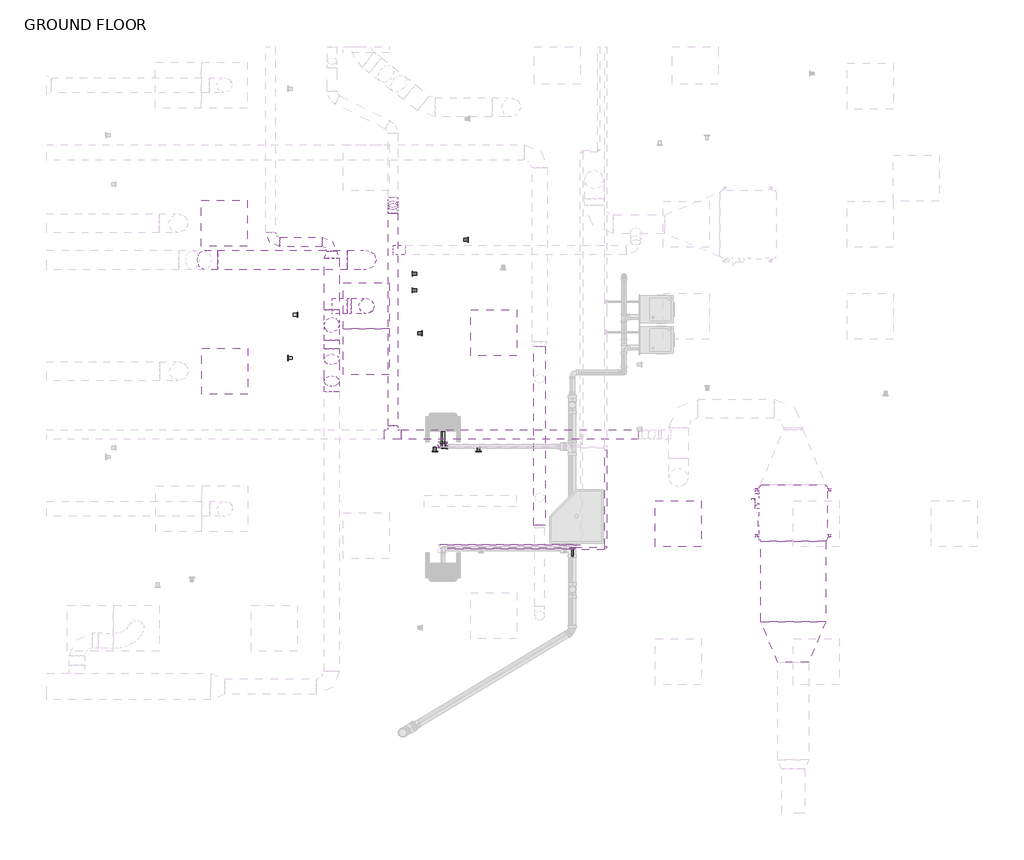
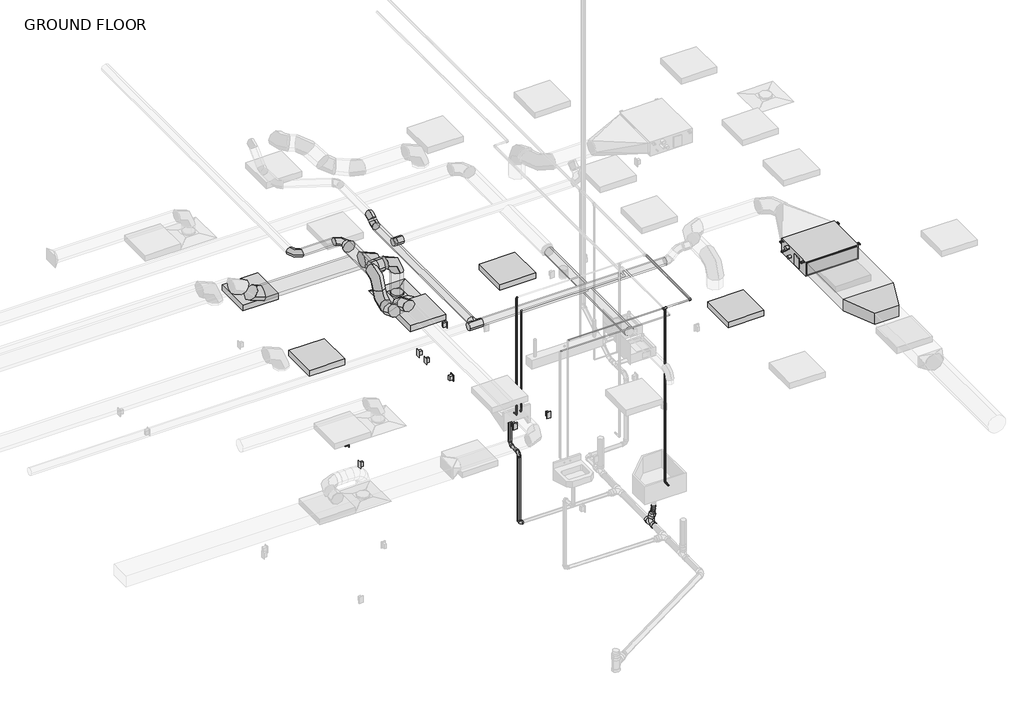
# One storey, part 7 of 20: 16 duct fittings, 15 pipe fittings, 14 pipe segments, 12 duct segments, 5 light fixtures, 5 proxies, 4 switching devices, 1 air terminal.
"""IFC4 building model written with IfcOpenShell, lengths in millimetres."""

from ifc_helpers import new_model, si_unit, point, frame, frame_2d, origin, place, context, project, spatial, polyline, circle_curve, trimmed, segment, composite_curve, outline, extrude, transform, mapped, element, save
from components import air_terminal_e9020785, mechanical_equipment_7e022f85, duplex_receptacle_countertop_10251bba, rectangular_transition_angle_45_degree_497df859, round_elbow_1_d_a253342a, round_elbow_1_d_6fec3262, round_elbow_1_d_c80420c1, round_elbow_1_d_ab3aa7ba, round_elbow_1_d_ea3dccb8, round_elbow_1_d_d4250430, round_takeoff_standard_331f3988, round_takeoff_standard_aff246af, round_tee_standard_ef45fe1c, round_transition_angle_45_degree_d7d10bec, troffer_corner_insert_2x2_3lamp_e67c7f8f, bend_pvc_sch_40_dwv_standard_56513ac6, bend_pvc_sch_40_dwv_standard_efe5b847, bend_pvc_sch_40_dwv_standard_0d44c437, elbow_generic_standard_c06ac706, elbow_generic_standard_738589b0, elbow_generic_standard_a088f956, reducer_pvc_sch_40_dwv_standard_5cd4e870, tee_generic_standard_d345b28c, tee_sanitary_pvc_sch_40_dwv_standard_33d2d55c, transition_generic_standard_55f5cc9a, transition_generic_standard_1e832544

model = new_model("IFC4")

# Units and contexts
model_context = context("Model", 3, world=origin())
ifc_project = project(units=[si_unit("LENGTHUNIT", "METRE", prefix="MILLI")], contexts=[model_context])

# Site, building, storey
site = spatial("IfcSite", under=ifc_project)
building = spatial("IfcBuilding", under=site)
storey = spatial("IfcBuildingStorey", under=building, Name="GROUND FLOOR", Elevation=30480.0)

# Air terminal
placement = place(None, origin())
air_terminal_shape = air_terminal_e9020785(model_context)
element("IfcAirTerminal", 1, ObjectType="Supply Diffuser - Rectangular Face Round Neck - Hosted : 24\"x24\" Face 8\" Neck - Hosted", at=placement, inside=storey, context=model_context, shape_type="MappedRepresentation", body=[
    mapped(air_terminal_shape, transform((10211.7545393, -1542.0554995, 33223.2), x_axis=(0.0, -1.0, 0.0), y_axis=(-1.0, 0.0, 0.0), z_axis=(0.0, 0.0, -1.0))),
])

# Proxies
mechanical_equipment_shape = mechanical_equipment_7e022f85(model_context)
element("IfcBuildingElementProxy", 2, Name="PEFY-P-NMAU-E_Medium_Static_Ducted : PEFY-P18NMAU-E", ObjectType="PEFY-P-NMAU-E_Medium_Static_Ducted : PEFY-P18NMAU-E", at=placement, inside=storey, context=model_context, shape_type="MappedRepresentation", body=[
    mapped(mechanical_equipment_shape, transform((15856.6983533, -4228.239426, 33604.2), x_axis=(-1.0, 0.0, 0.0), y_axis=(0.0, -1.0, 0.0), z_axis=(0.0, 0.0, 1.0))),
])
duplex_receptacle_countertop_shape = duplex_receptacle_countertop_10251bba(model_context)
element("IfcBuildingElementProxy", 3, Name="Duplex Receptacle : GFCI", ObjectType="Duplex Receptacle : GFCI", at=placement, inside=storey, context=model_context, shape_type="MappedRepresentation", body=[
    mapped(duplex_receptacle_countertop_shape, transform((10945.1795393, -1904.4991631, 31699.2), x_axis=(0.0, 1.0, 0.0), y_axis=(0.0, 0.0, 1.0), z_axis=(1.0, 0.0, 0.0))),
])
element("IfcBuildingElementProxy", 4, Name="Duplex Receptacle : GFCI", ObjectType="Duplex Receptacle : GFCI", at=placement, inside=storey, context=model_context, shape_type="MappedRepresentation", body=[
    mapped(duplex_receptacle_countertop_shape, transform((11695.4238413, -3466.1054995, 31699.2), x_axis=(1.0, 0.0, 0.0), y_axis=(0.0, 0.0, 1.0), z_axis=(0.0, -1.0, 0.0))),
])
element("IfcBuildingElementProxy", 5, Name="Duplex Receptacle : Standard", ObjectType="Duplex Receptacle : Standard", at=placement, inside=storey, context=model_context, shape_type="MappedRepresentation", body=[
    mapped(duplex_receptacle_countertop_shape, transform((9173.5295393, -2231.5768366, 30937.2), x_axis=(0.0, -1.0, 0.0), y_axis=(0.0, 0.0, 1.0), z_axis=(-1.0, 0.0, 0.0))),
])
element("IfcBuildingElementProxy", 6, Name="Duplex Receptacle : Standard", ObjectType="Duplex Receptacle : Standard", at=placement, inside=storey, context=model_context, shape_type="MappedRepresentation", body=[
    mapped(duplex_receptacle_countertop_shape, transform((9297.3545393, -1658.5626349, 30937.2), x_axis=(0.0, 1.0, 0.0), y_axis=(0.0, 0.0, 1.0), z_axis=(1.0, 0.0, 0.0))),
])

# Duct fittings
rectangular_transition_angle_45_degree_shape = rectangular_transition_angle_45_degree_497df859(model_context)
element("IfcDuctFitting", 7, ObjectType="Rectangular Transition - Angle : 45 Degree", at=placement, inside=storey, context=model_context, shape_type="MappedRepresentation", body=[
    mapped(rectangular_transition_angle_45_degree_shape, transform((15866.7105962, -5723.664426, 33750.25), x_axis=(0.0, -1.0, 0.0), y_axis=(1.0, 0.0, 0.0), z_axis=(0.0, 0.0, 1.0))),
])
round_elbow_1_d_shape = round_elbow_1_d_a253342a(model_context)
element("IfcDuctFitting", 8, ObjectType="Round Elbow : 1 D", at=placement, inside=storey, context=model_context, shape_type="MappedRepresentation", body=[
    mapped(round_elbow_1_d_shape, transform((10211.7545393, -1542.0554995, 33877.25), x_axis=(1.0, 0.0, 0.0), y_axis=(0.0, 0.0, -1.0), z_axis=(0.0, 1.0, 0.0))),
])
element("IfcDuctFitting", 9, ObjectType="Round Elbow : 1 D", at=placement, inside=storey, context=model_context, shape_type="MappedRepresentation", body=[
    mapped(round_elbow_1_d_shape, transform((9751.3795393, -1793.3165405, 33877.25), x_axis=(0.0, -1.0, 0.0), y_axis=(0.0, 0.0, -1.0), z_axis=(1.0, 0.0, 0.0))),
])
element("IfcDuctFitting", 10, ObjectType="Round Elbow : 1 D", at=placement, inside=storey, context=model_context, shape_type="MappedRepresentation", body=[
    mapped(round_elbow_1_d_shape, transform((9751.3795393, -1793.3165405, 33470.85), x_axis=(0.0, 0.0, -1.0), y_axis=(0.0, -1.0, 0.0), z_axis=(-1.0, 0.0, 0.0))),
])
round_elbow_1_d_2_shape = round_elbow_1_d_6fec3262(model_context)
element("IfcDuctFitting", 11, ObjectType="Round Elbow : 1 D", at=placement, inside=storey, context=model_context, shape_type="MappedRepresentation", body=[
    mapped(round_elbow_1_d_2_shape, transform((10211.7545393, -932.4554995, 33578.8), x_axis=(0.0, 0.0, 1.0), y_axis=(-1.0, 0.0, 0.0), z_axis=(0.0, -1.0, 0.0))),
])
round_elbow_1_d_3_shape = round_elbow_1_d_c80420c1(model_context)
element("IfcDuctFitting", 12, ObjectType="Round Elbow : 1 D", at=placement, inside=storey, context=model_context, shape_type="MappedRepresentation", body=[
    mapped(round_elbow_1_d_3_shape, transform((9751.3795393, -691.6850038, 33877.25), x_axis=(0.0, 1.0, 0.0), y_axis=(-1.0, 0.0, 0.0), z_axis=(0.0, 0.0, 1.0))),
])
element("IfcDuctFitting", 13, ObjectType="Round Elbow : 1 D", at=placement, inside=storey, context=model_context, shape_type="MappedRepresentation", body=[
    mapped(round_elbow_1_d_3_shape, transform((8938.5795393, -691.6850038, 33877.25), x_axis=(0.0, -1.0, 0.0), y_axis=(1.0, 0.0, 0.0), z_axis=(0.0, 0.0, 1.0))),
])
round_elbow_1_d_4_shape = round_elbow_1_d_ab3aa7ba(model_context)
element("IfcDuctFitting", 14, ObjectType="Round Elbow : 1 D", at=placement, inside=storey, context=model_context, shape_type="MappedRepresentation", body=[
    mapped(round_elbow_1_d_4_shape, transform((9751.3795393, -2596.6056414, 33877.25), x_axis=(0.0, 1.0, 0.0), y_axis=(0.0, 0.0, -1.0), z_axis=(-1.0, 0.0, 0.0))),
])
element("IfcDuctFitting", 15, ObjectType="Round Elbow : 1 D", at=placement, inside=storey, context=model_context, shape_type="MappedRepresentation", body=[
    mapped(round_elbow_1_d_4_shape, transform((9751.3795393, -2190.2056414, 33470.85), x_axis=(0.0, 0.7071067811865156, -0.7071067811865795), y_axis=(0.0, 0.7071067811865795, 0.7071067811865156), z_axis=(1.0, 0.0, 0.0))),
])
round_elbow_1_d_5_shape = round_elbow_1_d_ea3dccb8(model_context)
element("IfcDuctFitting", 16, ObjectType="Round Elbow : 1 D", at=placement, inside=storey, context=model_context, shape_type="MappedRepresentation", body=[
    mapped(round_elbow_1_d_5_shape, transform((8136.5019534, -932.4554995, 33578.8), x_axis=(0.7071067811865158, 0.0, -0.7071067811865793), y_axis=(0.7071067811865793, 0.0, 0.7071067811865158), z_axis=(0.0, -1.0, 0.0))),
])
round_elbow_1_d_6_shape = round_elbow_1_d_d4250430(model_context)
element("IfcDuctFitting", 17, ObjectType="Round Elbow : 1 D", at=placement, inside=storey, context=model_context, shape_type="MappedRepresentation", body=[
    mapped(round_elbow_1_d_6_shape, transform((10560.5577502, -156.9708741, 33705.8), x_axis=(0.0, -1.0, 0.0), y_axis=(0.0, 0.0, -1.0), z_axis=(1.0, 0.0, 0.0))),
])
element("IfcDuctFitting", 18, ObjectType="Round Elbow : 1 D", at=placement, inside=storey, context=model_context, shape_type="MappedRepresentation", body=[
    mapped(round_elbow_1_d_6_shape, transform((10560.5577502, -259.8606861, 33602.9101563), x_axis=(0.0, -0.7071066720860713, -0.7071068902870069), y_axis=(0.0, -0.7071068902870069, 0.7071066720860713), z_axis=(-1.0, 0.0, 0.0))),
])
round_takeoff_standard_shape = round_takeoff_standard_331f3988(model_context)
element("IfcDuctFitting", 19, ObjectType="Round Takeoff : Standard", at=placement, inside=storey, context=model_context, shape_type="MappedRepresentation", body=[
    mapped(round_takeoff_standard_shape, transform((10624.0577502, -800.4644888, 33602.9101562), x_axis=(1.0, 0.0, 0.0), y_axis=(0.0, -1.0, 0.0), z_axis=(0.0, 0.0, -1.0))),
])
round_takeoff_standard_2_shape = round_takeoff_standard_aff246af(model_context)
element("IfcDuctFitting", 20, ObjectType="Round Takeoff : Standard", at=placement, inside=storey, context=model_context, shape_type="MappedRepresentation", body=[
    mapped(round_takeoff_standard_2_shape, transform((9852.9795393, -1542.0554995, 33877.25), x_axis=(1.0, 0.0, 0.0), y_axis=(0.0, -1.0, 0.0), z_axis=(0.0, 0.0, -1.0))),
])
round_tee_standard_shape = round_tee_standard_ef45fe1c(model_context)
element("IfcDuctFitting", 21, ObjectType="Round Tee : Standard", at=placement, inside=storey, context=model_context, shape_type="MappedRepresentation", body=[
    mapped(round_tee_standard_shape, transform((10560.5577502, -3245.6216457, 33602.867541), x_axis=(-1.0, 0.0, 0.0), y_axis=(0.0, -1.0, 0.0), z_axis=(0.0, 0.0, 1.0))),
])
round_transition_angle_45_degree_shape = round_transition_angle_45_degree_d7d10bec(model_context)
element("IfcDuctFitting", 22, ObjectType="Round Transition - Angle : 45 Degree", at=placement, inside=storey, context=model_context, shape_type="MappedRepresentation", body=[
    mapped(round_transition_angle_45_degree_shape, transform((9751.3795393, -910.6665405, 33877.25), x_axis=(0.0, 1.0, 0.0), y_axis=(-1.0, 0.0, 0.0), z_axis=(0.0, 0.0, 1.0))),
])

# Duct segments
element("IfcDuctSegment", 23, ObjectType="Mitered Elbows / Taps", at=placement, inside=storey, context=model_context, shape_type="SweptSolid", body=[
    extrude(outline(polyline([(15438.8793462, -4656.864426), (16294.5418462, -4656.864426), (16294.5418462, -5723.664426), (15438.8793462, -5723.664426), (15438.8793462, -4656.864426)])), frame((0.0, 0.0, 33647.0625), z_axis=(0.0, 0.0, 1.0), x_axis=(1.0, 0.0, 0.0)), (0.0, 0.0, 1.0), 206.375),
])
element("IfcDuctSegment", 24, ObjectType="Taps / Short Radius", at=placement, inside=storey, context=model_context, shape_type="SweptSolid", body=[
    extrude(outline(composite_curve([segment(trimmed(circle_curve(frame_2d((-691.6850038, 33877.25)), 63.5), [point((-628.1850038, 33877.25))], [point((-691.6850038, 33813.75))], False, "CARTESIAN"), True, "CONTINUOUS"), segment(trimmed(circle_curve(frame_2d((-691.6850038, 33877.25)), 63.5), [point((-691.6850038, 33813.75))], [point((-755.1850038, 33877.25))], False, "CARTESIAN"), True, "CONTINUOUS"), segment(trimmed(circle_curve(frame_2d((-691.6850038, 33877.25)), 63.5), [point((-755.1850038, 33877.25))], [point((-691.6850038, 33940.75))], False, "CARTESIAN"), True, "CONTINUOUS"), segment(trimmed(circle_curve(frame_2d((-691.6850038, 33877.25)), 63.5), [point((-691.6850038, 33940.75))], [point((-628.1850038, 33877.25))], False, "CARTESIAN"), True, "CONTINUOUS")], self_intersect=False)), frame((9065.5795393, 0.0, 0.0), z_axis=(1.0, 0.0, 0.0), x_axis=(0.0, 1.0, 0.0)), (0.0, 0.0, 1.0), 558.8),
])
element("IfcDuctSegment", 25, ObjectType="Taps / Short Radius", at=placement, inside=storey, context=model_context, shape_type="SweptSolid", body=[
    extrude(outline(composite_curve([segment(trimmed(circle_curve(frame_2d((10211.7545393, -1542.0554995)), 101.6), [point((10211.7545393, -1643.6554995))], [point((10110.1545393, -1542.0554995))], False, "CARTESIAN"), True, "CONTINUOUS"), segment(trimmed(circle_curve(frame_2d((10211.7545393, -1542.0554995)), 101.6), [point((10110.1545393, -1542.0554995))], [point((10211.7545393, -1440.4554995))], False, "CARTESIAN"), True, "CONTINUOUS"), segment(trimmed(circle_curve(frame_2d((10211.7545393, -1542.0554995)), 101.6), [point((10211.7545393, -1440.4554995))], [point((10313.3545393, -1542.0554995))], False, "CARTESIAN"), True, "CONTINUOUS"), segment(trimmed(circle_curve(frame_2d((10211.7545393, -1542.0554995)), 101.6), [point((10313.3545393, -1542.0554995))], [point((10211.7545393, -1643.6554995))], False, "CARTESIAN"), True, "CONTINUOUS")], self_intersect=False)), frame((0.0, 0.0, 33277.175), z_axis=(0.0, 0.0, 1.0), x_axis=(1.0, 0.0, 0.0)), (0.0, 0.0, 1.0), 396.875),
])
element("IfcDuctSegment", 26, ObjectType="Taps / Short Radius", at=placement, inside=storey, context=model_context, shape_type="SweptSolid", body=[
    extrude(outline(composite_curve([segment(trimmed(circle_curve(frame_2d((-1542.0554995, 33877.25)), 101.6), [point((-1643.6554995, 33877.25))], [point((-1542.0554995, 33978.85))], False, "CARTESIAN"), True, "CONTINUOUS"), segment(trimmed(circle_curve(frame_2d((-1542.0554995, 33877.25)), 101.6), [point((-1542.0554995, 33978.85))], [point((-1440.4554995, 33877.25))], False, "CARTESIAN"), True, "CONTINUOUS"), segment(trimmed(circle_curve(frame_2d((-1542.0554995, 33877.25)), 101.6), [point((-1440.4554995, 33877.25))], [point((-1542.0554995, 33775.65))], False, "CARTESIAN"), True, "CONTINUOUS"), segment(trimmed(circle_curve(frame_2d((-1542.0554995, 33877.25)), 101.6), [point((-1542.0554995, 33775.65))], [point((-1643.6554995, 33877.25))], False, "CARTESIAN"), True, "CONTINUOUS")], self_intersect=False)), frame((9954.5795393, 0.0, 0.0), z_axis=(1.0, 0.0, 0.0), x_axis=(0.0, 1.0, 0.0)), (0.0, 0.0, 1.0), 53.975),
])
element("IfcDuctSegment", 27, ObjectType="Taps / Short Radius", at=placement, inside=storey, context=model_context, shape_type="SweptSolid", body=[
    extrude(outline(composite_curve([segment(trimmed(circle_curve(frame_2d((-932.4554995, 33578.8)), 127.0), [point((-1059.4554995, 33578.8))], [point((-932.4554995, 33705.8))], False, "CARTESIAN"), True, "CONTINUOUS"), segment(trimmed(circle_curve(frame_2d((-932.4554995, 33578.8)), 127.0), [point((-932.4554995, 33705.8))], [point((-805.4554995, 33578.8))], False, "CARTESIAN"), True, "CONTINUOUS"), segment(trimmed(circle_curve(frame_2d((-932.4554995, 33578.8)), 127.0), [point((-805.4554995, 33578.8))], [point((-932.4554995, 33451.8))], False, "CARTESIAN"), True, "CONTINUOUS"), segment(trimmed(circle_curve(frame_2d((-932.4554995, 33578.8)), 127.0), [point((-932.4554995, 33451.8))], [point((-1059.4554995, 33578.8))], False, "CARTESIAN"), True, "CONTINUOUS")], self_intersect=False)), frame((8241.7121983, 0.0, 0.0), z_axis=(1.0, 0.0, 0.0), x_axis=(0.0, 1.0, 0.0)), (0.0, 0.0, 1.0), 1716.042341),
])
element("IfcDuctSegment", 28, ObjectType="Taps / Short Radius", at=placement, inside=storey, context=model_context, shape_type="SweptSolid", body=[
    extrude(outline(composite_curve([segment(trimmed(circle_curve(frame_2d((-3245.6216457, 33602.867541)), 63.5), [point((-3182.1216457, 33602.867541))], [point((-3245.6216457, 33539.367541))], False, "CARTESIAN"), True, "CONTINUOUS"), segment(trimmed(circle_curve(frame_2d((-3245.6216457, 33602.867541)), 63.5), [point((-3245.6216457, 33539.367541))], [point((-3309.1216457, 33602.867541))], False, "CARTESIAN"), True, "CONTINUOUS"), segment(trimmed(circle_curve(frame_2d((-3245.6216457, 33602.867541)), 63.5), [point((-3309.1216457, 33602.867541))], [point((-3245.6216457, 33666.367541))], False, "CARTESIAN"), True, "CONTINUOUS"), segment(trimmed(circle_curve(frame_2d((-3245.6216457, 33602.867541)), 63.5), [point((-3245.6216457, 33666.367541))], [point((-3182.1216457, 33602.867541))], False, "CARTESIAN"), True, "CONTINUOUS")], self_intersect=False)), frame((10674.8577502, 0.0, 0.0), z_axis=(1.0, 0.0, 0.0), x_axis=(0.0, 1.0, 0.0)), (0.0, 0.0, 1.0), 3141.2354795),
])
element("IfcDuctSegment", 29, ObjectType="Taps / Short Radius", at=placement, inside=storey, context=model_context, shape_type="SweptSolid", body=[
    extrude(outline(composite_curve([segment(trimmed(circle_curve(frame_2d((33528.0, 12507.2795393)), 76.2), [point((33528.0, 12583.4795393))], [point((33604.2, 12507.2795393))], False, "CARTESIAN"), True, "CONTINUOUS"), segment(trimmed(circle_curve(frame_2d((33528.0, 12507.2795393)), 76.2), [point((33604.2, 12507.2795393))], [point((33528.0, 12431.0795393))], False, "CARTESIAN"), True, "CONTINUOUS"), segment(trimmed(circle_curve(frame_2d((33528.0, 12507.2795393)), 76.2), [point((33528.0, 12431.0795393))], [point((33451.8, 12507.2795393))], False, "CARTESIAN"), True, "CONTINUOUS"), segment(trimmed(circle_curve(frame_2d((33528.0, 12507.2795393)), 76.2), [point((33451.8, 12507.2795393))], [point((33528.0, 12583.4795393))], False, "CARTESIAN"), True, "CONTINUOUS")], self_intersect=False)), frame((0.0, -4448.2699872, 0.0), z_axis=(0.0, 1.0, 0.0), x_axis=(0.0, 0.0, 1.0)), (0.0, 0.0, 1.0), 2369.8966003),
])
element("IfcDuctSegment", 30, ObjectType="Taps / Short Radius", at=placement, inside=storey, context=model_context, shape_type="SweptSolid", body=[
    extrude(outline(composite_curve([segment(trimmed(circle_curve(frame_2d((33602.867541, 10560.5577502)), 63.5), [point((33602.867541, 10497.0577502))], [point((33539.367541, 10560.5577502))], False, "CARTESIAN"), True, "CONTINUOUS"), segment(trimmed(circle_curve(frame_2d((33602.867541, 10560.5577502)), 63.5), [point((33539.367541, 10560.5577502))], [point((33602.867541, 10624.0577502))], False, "CARTESIAN"), True, "CONTINUOUS"), segment(trimmed(circle_curve(frame_2d((33602.867541, 10560.5577502)), 63.5), [point((33602.867541, 10624.0577502))], [point((33666.367541, 10560.5577502))], False, "CARTESIAN"), True, "CONTINUOUS"), segment(trimmed(circle_curve(frame_2d((33602.867541, 10560.5577502)), 63.5), [point((33666.367541, 10560.5577502))], [point((33602.867541, 10497.0577502))], False, "CARTESIAN"), True, "CONTINUOUS")], self_intersect=False)), frame((0.0, -3131.3216457, 0.0), z_axis=(0.0, 1.0, 0.0), x_axis=(0.0, 0.0, 1.0)), (0.0, 0.0, 1.0), 2818.8132105),
])
element("IfcDuctSegment", 31, ObjectType="Taps / Short Radius", at=placement, inside=storey, context=model_context, shape_type="SweptSolid", body=[
    extrude(outline(composite_curve([segment(trimmed(circle_curve(frame_2d((0.0, -63.5)), 63.5), [point((-63.5, -63.5))], [point((0.0, 0.0))], False, "CARTESIAN"), True, "CONTINUOUS"), segment(trimmed(circle_curve(frame_2d((0.0, -63.5)), 63.5), [point((0.0, 0.0))], [point((63.5, -63.5))], False, "CARTESIAN"), True, "CONTINUOUS"), segment(trimmed(circle_curve(frame_2d((0.0, -63.5)), 63.5), [point((63.5, -63.5))], [point((0.0, -127.0))], False, "CARTESIAN"), True, "CONTINUOUS"), segment(trimmed(circle_curve(frame_2d((0.0, -63.5)), 63.5), [point((0.0, -127.0))], [point((-63.5, -63.5))], False, "CARTESIAN"), True, "CONTINUOUS")], self_intersect=False)), frame((10560.5577502, -177.7619574, 33595.2063352), z_axis=(0.0, 0.7071066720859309, 0.7071068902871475), x_axis=(1.0, 0.0, 0.0)), (0.0, 0.0, 1.0), 40.2979222),
])
element("IfcDuctSegment", 32, ObjectType="Taps / Short Radius", at=placement, inside=storey, context=model_context, shape_type="SweptSolid", body=[
    extrude(outline(composite_curve([segment(trimmed(circle_curve(frame_2d((33877.25, 9751.3795393)), 101.6), [point((33877.25, 9649.7795393))], [point((33775.65, 9751.3795393))], False, "CARTESIAN"), True, "CONTINUOUS"), segment(trimmed(circle_curve(frame_2d((33877.25, 9751.3795393)), 101.6), [point((33775.65, 9751.3795393))], [point((33877.25, 9852.9795393))], False, "CARTESIAN"), True, "CONTINUOUS"), segment(trimmed(circle_curve(frame_2d((33877.25, 9751.3795393)), 101.6), [point((33877.25, 9852.9795393))], [point((33978.85, 9751.3795393))], False, "CARTESIAN"), True, "CONTINUOUS"), segment(trimmed(circle_curve(frame_2d((33877.25, 9751.3795393)), 101.6), [point((33978.85, 9751.3795393))], [point((33877.25, 9649.7795393))], False, "CARTESIAN"), True, "CONTINUOUS")], self_intersect=False)), frame((0.0, -1590.1165405, 0.0), z_axis=(0.0, 1.0, 0.0), x_axis=(0.0, 0.0, 1.0)), (0.0, 0.0, 1.0), 679.45),
])
element("IfcDuctSegment", 33, ObjectType="Taps / Short Radius", at=placement, inside=storey, context=model_context, shape_type="SweptSolid", body=[
    extrude(outline(composite_curve([segment(trimmed(circle_curve(frame_2d((0.0, -101.5999999)), 101.6), [point((101.6, -101.5999999))], [point((0.0, -203.1999999))], False, "CARTESIAN"), True, "CONTINUOUS"), segment(trimmed(circle_curve(frame_2d((0.0, -101.5999999)), 101.6), [point((0.0, -203.1999999))], [point((-101.6, -101.5999999))], False, "CARTESIAN"), True, "CONTINUOUS"), segment(trimmed(circle_curve(frame_2d((0.0, -101.5999999)), 101.6), [point((-101.6, -101.5999999))], [point((0.0, 0.0))], False, "CARTESIAN"), True, "CONTINUOUS"), segment(trimmed(circle_curve(frame_2d((0.0, -101.5999999)), 101.6), [point((0.0, 0.0))], [point((101.6, -101.5999999))], False, "CARTESIAN"), True, "CONTINUOUS")], self_intersect=False)), frame((9751.3795393, -2177.8794945, 33602.207951), z_axis=(0.0, -0.7071067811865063, 0.7071067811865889), x_axis=(1.0, 0.0, 0.0)), (0.0, 0.0, 1.0), 406.4),
])
element("IfcDuctSegment", 34, ObjectType="Taps / Short Radius", at=placement, inside=storey, context=model_context, shape_type="SweptSolid", body=[
    extrude(outline(composite_curve([segment(trimmed(circle_curve(frame_2d((33470.85, 9751.3795393)), 101.6), [point((33470.85, 9649.7795393))], [point((33369.25, 9751.3795393))], False, "CARTESIAN"), True, "CONTINUOUS"), segment(trimmed(circle_curve(frame_2d((33470.85, 9751.3795393)), 101.6), [point((33369.25, 9751.3795393))], [point((33470.85, 9852.9795393))], False, "CARTESIAN"), True, "CONTINUOUS"), segment(trimmed(circle_curve(frame_2d((33470.85, 9751.3795393)), 101.6), [point((33470.85, 9852.9795393))], [point((33572.45, 9751.3795393))], False, "CARTESIAN"), True, "CONTINUOUS"), segment(trimmed(circle_curve(frame_2d((33470.85, 9751.3795393)), 101.6), [point((33572.45, 9751.3795393))], [point((33470.85, 9649.7795393))], False, "CARTESIAN"), True, "CONTINUOUS")], self_intersect=False)), frame((0.0, -2106.0374455, 0.0), z_axis=(0.0, 1.0, 0.0), x_axis=(0.0, 0.0, 1.0)), (0.0, 0.0, 1.0), 109.520905),
])

# Light fixtures
troffer_corner_insert_2x2_3lamp_shape = troffer_corner_insert_2x2_3lamp_e67c7f8f(model_context)
element("IfcLightFixture", 35, ObjectType="Troffer Corner Insert : 2x2 3Lamp", at=placement, inside=storey, context=model_context, shape_type="MappedRepresentation", body=[
    mapped(troffer_corner_insert_2x2_3lamp_shape, transform((8328.8671727, -446.6804995, 30784.8), x_axis=(1.0, 0.0, 0.0), y_axis=(0.0, 1.0, 0.0), z_axis=(0.0, 0.0, 1.0))),
])
element("IfcLightFixture", 36, ObjectType="Troffer Corner Insert : 2x2 3Lamp", at=placement, inside=storey, context=model_context, shape_type="MappedRepresentation", body=[
    mapped(troffer_corner_insert_2x2_3lamp_shape, transform((8335.3295393, -2407.6759121, 30784.8), x_axis=(1.0, 0.0, 0.0), y_axis=(0.0, 1.0, 0.0), z_axis=(0.0, 0.0, 1.0))),
])
element("IfcLightFixture", 37, ObjectType="Troffer Corner Insert : 2x2 3Lamp", at=placement, inside=storey, context=model_context, shape_type="MappedRepresentation", body=[
    mapped(troffer_corner_insert_2x2_3lamp_shape, transform((10211.7545393, -2151.6554995, 30784.8), x_axis=(1.0, 0.0, 0.0), y_axis=(0.0, 1.0, 0.0), z_axis=(0.0, 0.0, 1.0))),
])
element("IfcLightFixture", 38, ObjectType="Troffer Corner Insert : 2x2 3Lamp", at=placement, inside=storey, context=model_context, shape_type="MappedRepresentation", body=[
    mapped(troffer_corner_insert_2x2_3lamp_shape, transform((11897.6795393, -1894.4804995, 30784.8), x_axis=(1.0, 0.0, 0.0), y_axis=(0.0, 1.0, 0.0), z_axis=(0.0, 0.0, 1.0))),
])
element("IfcLightFixture", 39, ObjectType="Troffer Corner Insert : 2x2 3Lamp", at=placement, inside=storey, context=model_context, shape_type="MappedRepresentation", body=[
    mapped(troffer_corner_insert_2x2_3lamp_shape, transform((14345.6045393, -4424.9554995, 30784.8), x_axis=(1.0, 0.0, 0.0), y_axis=(0.0, 1.0, 0.0), z_axis=(0.0, 0.0, 1.0))),
])

# Pipe fittings
bend_pvc_sch_40_dwv_standard_shape = bend_pvc_sch_40_dwv_standard_56513ac6(model_context)
element("IfcPipeFitting", 40, ObjectType="Bend - PVC - Sch 40 - DWV : Standard", at=placement, inside=storey, context=model_context, shape_type="MappedRepresentation", body=[
    mapped(bend_pvc_sch_40_dwv_standard_shape, transform((11224.5795393, -3139.0804995, 31140.4), x_axis=(0.0, 0.0, -1.0), y_axis=(0.0, -1.0, 0.0), z_axis=(-1.0, 0.0, 0.0))),
])
element("IfcPipeFitting", 41, ObjectType="Bend - PVC - Sch 40 - DWV : Standard", at=placement, inside=storey, context=model_context, shape_type="MappedRepresentation", body=[
    mapped(bend_pvc_sch_40_dwv_standard_shape, transform((11224.5795393, -3405.7804995, 31137.621875), x_axis=(0.0, -0.9999457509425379, -0.010416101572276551), y_axis=(0.0, 0.010416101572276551, -0.9999457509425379), z_axis=(1.0, 0.0, 0.0))),
])
bend_pvc_sch_40_dwv_standard_2_shape = bend_pvc_sch_40_dwv_standard_efe5b847(model_context)
element("IfcPipeFitting", 42, ObjectType="Bend - PVC - Sch 40 - DWV : Standard", at=placement, inside=storey, context=model_context, shape_type="MappedRepresentation", body=[
    mapped(bend_pvc_sch_40_dwv_standard_2_shape, transform((11224.5795393, -3405.7804995, 29869.9466323), x_axis=(0.0, 0.0, -1.0), y_axis=(1.0, 0.0, 0.0), z_axis=(0.0, -1.0, 0.0))),
])
bend_pvc_sch_40_dwv_standard_3_shape = bend_pvc_sch_40_dwv_standard_0d44c437(model_context)
element("IfcPipeFitting", 43, ObjectType="Bend - PVC - Sch 40 - DWV : Standard", at=placement, inside=storey, context=model_context, shape_type="MappedRepresentation", body=[
    mapped(bend_pvc_sch_40_dwv_standard_3_shape, transform((12993.0545393, -4329.7054995, 30099.0), x_axis=(0.0, 0.0, -1.0), y_axis=(-1.0, 0.0, 0.0), z_axis=(0.0, 1.0, 0.0))),
])
elbow_generic_standard_shape = elbow_generic_standard_c06ac706(model_context)
element("IfcPipeFitting", 44, ObjectType="Elbow - Generic : Standard", at=placement, inside=storey, context=model_context, shape_type="MappedRepresentation", body=[
    mapped(elbow_generic_standard_shape, transform((13383.5569177, -4755.5406482, 33978.2831664), x_axis=(1.0, 0.0, 0.0), y_axis=(0.0, 1.0, 0.0), z_axis=(0.0, 0.0, 1.0))),
])
elbow_generic_standard_2_shape = elbow_generic_standard_738589b0(model_context)
element("IfcPipeFitting", 45, ObjectType="Elbow - Generic : Standard", at=placement, inside=storey, context=model_context, shape_type="MappedRepresentation", body=[
    mapped(elbow_generic_standard_2_shape, transform((12942.2545393, -4755.5406482, 30835.6), x_axis=(0.0, 0.0, -1.0), y_axis=(0.0, -1.0, 0.0), z_axis=(-1.0, 0.0, 0.0))),
])
elbow_generic_standard_3_shape = elbow_generic_standard_a088f956(model_context)
element("IfcPipeFitting", 46, ObjectType="Elbow - Generic : Standard", at=placement, inside=storey, context=model_context, shape_type="MappedRepresentation", body=[
    mapped(elbow_generic_standard_3_shape, transform((11173.7795393, -3418.4804995, 31851.6), x_axis=(0.0, -1.0, 0.0), y_axis=(0.0, 0.0, 1.0), z_axis=(-1.0, 0.0, 0.0))),
])
element("IfcPipeFitting", 47, ObjectType="Elbow - Generic : Standard", at=placement, inside=storey, context=model_context, shape_type="MappedRepresentation", body=[
    mapped(elbow_generic_standard_3_shape, transform((11173.7795393, -3418.4804995, 33978.2831664), x_axis=(0.0, 0.0, 1.0), y_axis=(1.0, 0.0, 0.0), z_axis=(0.0, 1.0, 0.0))),
])
element("IfcPipeFitting", 48, ObjectType="Elbow - Generic : Standard", at=placement, inside=storey, context=model_context, shape_type="MappedRepresentation", body=[
    mapped(elbow_generic_standard_3_shape, transform((11275.3795393, -3376.3689834, 33680.4), x_axis=(-1.0, 0.0, 0.0), y_axis=(0.0, 0.0, -1.0), z_axis=(0.0, -1.0, 0.0))),
])
element("IfcPipeFitting", 49, ObjectType="Elbow - Generic : Standard", at=placement, inside=storey, context=model_context, shape_type="MappedRepresentation", body=[
    mapped(elbow_generic_standard_3_shape, transform((11275.3795393, -3376.3689834, 31851.6), x_axis=(0.0, 0.0, -1.0), y_axis=(0.0, 1.0, 0.0), z_axis=(1.0, 0.0, 0.0))),
])
reducer_pvc_sch_40_dwv_standard_shape = reducer_pvc_sch_40_dwv_standard_5cd4e870(model_context)
element("IfcPipeFitting", 50, ObjectType="Reducer - PVC - Sch 40 - DWV : Standard", at=placement, inside=storey, context=model_context, shape_type="MappedRepresentation", body=[
    mapped(reducer_pvc_sch_40_dwv_standard_shape, transform((12963.7691002, -4329.7054995, 29968.2251453), x_axis=(0.2130243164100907, 0.0, 0.977046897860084), y_axis=(-0.0021680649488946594, 0.9999975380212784, 0.00047270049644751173), z_axis=(-0.9770444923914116, -0.0022189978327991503, 0.21302379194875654))),
])
tee_generic_standard_shape = tee_generic_standard_d345b28c(model_context)
element("IfcPipeFitting", 51, ObjectType="Tee - Generic : Standard", at=placement, inside=storey, context=model_context, shape_type="MappedRepresentation", body=[
    mapped(tee_generic_standard_shape, transform((12942.2545393, -4755.5406482, 33978.2831664), x_axis=(-1.0, 0.0, 0.0), y_axis=(0.0, 0.0, 1.0), z_axis=(0.0, 1.0, 0.0))),
])
tee_sanitary_pvc_sch_40_dwv_standard_shape = tee_sanitary_pvc_sch_40_dwv_standard_33d2d55c(model_context)
element("IfcPipeFitting", 52, ObjectType="Tee Sanitary - PVC - Sch 40 - DWV : Standard", at=placement, inside=storey, context=model_context, shape_type="MappedRepresentation", body=[
    mapped(tee_sanitary_pvc_sch_40_dwv_standard_shape, transform((12939.0795393, -4329.7058732, 29855.0210899), x_axis=(0.0, 0.9999457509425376, 0.01041610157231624), y_axis=(-0.2130353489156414, 0.010176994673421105, -0.9769914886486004), z_axis=(-0.9770444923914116, -0.0022189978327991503, 0.21302379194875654))),
])
transition_generic_standard_shape = transition_generic_standard_55f5cc9a(model_context)
element("IfcPipeFitting", 53, ObjectType="Transition - Generic : Standard", at=placement, inside=storey, context=model_context, shape_type="MappedRepresentation", body=[
    mapped(transition_generic_standard_shape, transform((12903.0725627, -4755.5406482, 33978.2831664), x_axis=(1.0, 0.0, 0.0), y_axis=(0.0, 1.0, 0.0), z_axis=(0.0, 0.0, 1.0))),
])
transition_generic_standard_2_shape = transition_generic_standard_1e832544(model_context)
element("IfcPipeFitting", 54, ObjectType="Transition - Generic : Standard", at=placement, inside=storey, context=model_context, shape_type="MappedRepresentation", body=[
    mapped(transition_generic_standard_2_shape, transform((12942.2545393, -4755.5406482, 33951.2956664), x_axis=(0.0, 0.0, -1.0), y_axis=(1.0, 0.0, 0.0), z_axis=(0.0, -1.0, 0.0))),
])

# Pipe segments
element("IfcPipeSegment", 55, ObjectType="Copper Tubing", at=placement, inside=storey, context=model_context, shape_type="SweptSolid", body=[
    extrude(outline(composite_curve([segment(trimmed(circle_curve(frame_2d((33978.2831664, 13383.5569177)), 14.2875), [point((33978.2831664, 13369.2694177))], [point((33963.9956664, 13383.5569177))], False, "CARTESIAN"), True, "CONTINUOUS"), segment(trimmed(circle_curve(frame_2d((33978.2831664, 13383.5569177)), 14.2875), [point((33963.9956664, 13383.5569177))], [point((33978.2831664, 13397.8444177))], False, "CARTESIAN"), True, "CONTINUOUS"), segment(trimmed(circle_curve(frame_2d((33978.2831664, 13383.5569177)), 14.2875), [point((33978.2831664, 13397.8444177))], [point((33992.5706664, 13383.5569177))], False, "CARTESIAN"), True, "CONTINUOUS"), segment(trimmed(circle_curve(frame_2d((33978.2831664, 13383.5569177)), 14.2875), [point((33992.5706664, 13383.5569177))], [point((33978.2831664, 13369.2694177))], False, "CARTESIAN"), True, "CONTINUOUS")], self_intersect=False)), frame((0.0, -4734.9031482, 0.0), z_axis=(0.0, 1.0, 0.0), x_axis=(0.0, 0.0, 1.0)), (0.0, 0.0, 1.0), 1289.4351487),
])
element("IfcPipeSegment", 56, ObjectType="Copper Tubing", at=placement, inside=storey, context=model_context, shape_type="SweptSolid", body=[
    extrude(outline(composite_curve([segment(trimmed(circle_curve(frame_2d((-4755.5406482, 33978.2831664)), 14.2875), [point((-4741.2531482, 33978.2831664))], [point((-4755.5406482, 33963.9956664))], False, "CARTESIAN"), True, "CONTINUOUS"), segment(trimmed(circle_curve(frame_2d((-4755.5406482, 33978.2831664)), 14.2875), [point((-4755.5406482, 33963.9956664))], [point((-4769.8281482, 33978.2831664))], False, "CARTESIAN"), True, "CONTINUOUS"), segment(trimmed(circle_curve(frame_2d((-4755.5406482, 33978.2831664)), 14.2875), [point((-4769.8281482, 33978.2831664))], [point((-4755.5406482, 33992.5706664))], False, "CARTESIAN"), True, "CONTINUOUS"), segment(trimmed(circle_curve(frame_2d((-4755.5406482, 33978.2831664)), 14.2875), [point((-4755.5406482, 33992.5706664))], [point((-4741.2531482, 33978.2831664))], False, "CARTESIAN"), True, "CONTINUOUS")], self_intersect=False)), frame((12910.2163127, 0.0, 0.0), z_axis=(1.0, 0.0, 0.0), x_axis=(0.0, 1.0, 0.0)), (0.0, 0.0, 1.0), 5.0507266),
])
element("IfcPipeSegment", 57, ObjectType="Copper Tubing", at=placement, inside=storey, context=model_context, shape_type="SweptSolid", body=[
    extrude(outline(composite_curve([segment(trimmed(circle_curve(frame_2d((-4755.5406482, 33978.2831664)), 7.9375), [point((-4763.4781482, 33978.2831664))], [point((-4755.5406482, 33986.2206664))], False, "CARTESIAN"), True, "CONTINUOUS"), segment(trimmed(circle_curve(frame_2d((-4755.5406482, 33978.2831664)), 7.9375), [point((-4755.5406482, 33986.2206664))], [point((-4747.6031482, 33978.2831664))], False, "CARTESIAN"), True, "CONTINUOUS"), segment(trimmed(circle_curve(frame_2d((-4755.5406482, 33978.2831664)), 7.9375), [point((-4747.6031482, 33978.2831664))], [point((-4755.5406482, 33970.3456664))], False, "CARTESIAN"), True, "CONTINUOUS"), segment(trimmed(circle_curve(frame_2d((-4755.5406482, 33978.2831664)), 7.9375), [point((-4755.5406482, 33970.3456664))], [point((-4763.4781482, 33978.2831664))], False, "CARTESIAN"), True, "CONTINUOUS")], self_intersect=False)), frame((11289.6670393, 0.0, 0.0), z_axis=(1.0, 0.0, 0.0), x_axis=(0.0, 1.0, 0.0)), (0.0, 0.0, 1.0), 1613.4055234),
])
element("IfcPipeSegment", 58, ObjectType="Copper Tubing", at=placement, inside=storey, context=model_context, shape_type="SweptSolid", body=[
    extrude(outline(composite_curve([segment(trimmed(circle_curve(frame_2d((30835.6, 12942.2545393)), 11.1125), [point((30835.6, 12931.1420393))], [point((30824.4875, 12942.2545393))], False, "CARTESIAN"), True, "CONTINUOUS"), segment(trimmed(circle_curve(frame_2d((30835.6, 12942.2545393)), 11.1125), [point((30824.4875, 12942.2545393))], [point((30835.6, 12953.3670393))], False, "CARTESIAN"), True, "CONTINUOUS"), segment(trimmed(circle_curve(frame_2d((30835.6, 12942.2545393)), 11.1125), [point((30835.6, 12953.3670393))], [point((30846.7125, 12942.2545393))], False, "CARTESIAN"), True, "CONTINUOUS"), segment(trimmed(circle_curve(frame_2d((30835.6, 12942.2545393)), 11.1125), [point((30846.7125, 12942.2545393))], [point((30835.6, 12931.1420393))], False, "CARTESIAN"), True, "CONTINUOUS")], self_intersect=False)), frame((0.0, -4859.9304995, 0.0), z_axis=(0.0, 1.0, 0.0), x_axis=(0.0, 0.0, 1.0)), (0.0, 0.0, 1.0), 86.9273513),
])
element("IfcPipeSegment", 59, ObjectType="Copper Tubing", at=placement, inside=storey, context=model_context, shape_type="SweptSolid", body=[
    extrude(outline(composite_curve([segment(trimmed(circle_curve(frame_2d((12942.2545393, -4755.5406482)), 11.1125), [point((12953.3670393, -4755.5406482))], [point((12942.2545393, -4766.6531482))], False, "CARTESIAN"), True, "CONTINUOUS"), segment(trimmed(circle_curve(frame_2d((12942.2545393, -4755.5406482)), 11.1125), [point((12942.2545393, -4766.6531482))], [point((12931.1420393, -4755.5406482))], False, "CARTESIAN"), True, "CONTINUOUS"), segment(trimmed(circle_curve(frame_2d((12942.2545393, -4755.5406482)), 11.1125), [point((12931.1420393, -4755.5406482))], [point((12942.2545393, -4744.4281482))], False, "CARTESIAN"), True, "CONTINUOUS"), segment(trimmed(circle_curve(frame_2d((12942.2545393, -4755.5406482)), 11.1125), [point((12942.2545393, -4744.4281482))], [point((12953.3670393, -4755.5406482))], False, "CARTESIAN"), True, "CONTINUOUS")], self_intersect=False)), frame((0.0, 0.0, 30853.0625), z_axis=(0.0, 0.0, 1.0), x_axis=(1.0, 0.0, 0.0)), (0.0, 0.0, 1.0), 3091.0894164),
])
element("IfcPipeSegment", 60, ObjectType="Copper Tubing", at=placement, inside=storey, context=model_context, shape_type="SweptSolid", body=[
    extrude(outline(composite_curve([segment(trimmed(circle_curve(frame_2d((-4755.5406482, 33978.2831664)), 14.2875), [point((-4741.2531482, 33978.2831664))], [point((-4755.5406482, 33963.9956664))], False, "CARTESIAN"), True, "CONTINUOUS"), segment(trimmed(circle_curve(frame_2d((-4755.5406482, 33978.2831664)), 14.2875), [point((-4755.5406482, 33963.9956664))], [point((-4769.8281482, 33978.2831664))], False, "CARTESIAN"), True, "CONTINUOUS"), segment(trimmed(circle_curve(frame_2d((-4755.5406482, 33978.2831664)), 14.2875), [point((-4769.8281482, 33978.2831664))], [point((-4755.5406482, 33992.5706664))], False, "CARTESIAN"), True, "CONTINUOUS"), segment(trimmed(circle_curve(frame_2d((-4755.5406482, 33978.2831664)), 14.2875), [point((-4755.5406482, 33992.5706664))], [point((-4741.2531482, 33978.2831664))], False, "CARTESIAN"), True, "CONTINUOUS")], self_intersect=False)), frame((12969.2420393, 0.0, 0.0), z_axis=(1.0, 0.0, 0.0), x_axis=(0.0, 1.0, 0.0)), (0.0, 0.0, 1.0), 393.6773784),
])
element("IfcPipeSegment", 61, ObjectType="Copper Tubing", at=placement, inside=storey, context=model_context, shape_type="SweptSolid", body=[
    extrude(outline(composite_curve([segment(trimmed(circle_curve(frame_2d((31851.6, 11173.7795393)), 7.9375), [point((31851.6, 11165.8420393))], [point((31843.6625, 11173.7795393))], False, "CARTESIAN"), True, "CONTINUOUS"), segment(trimmed(circle_curve(frame_2d((31851.6, 11173.7795393)), 7.9375), [point((31843.6625, 11173.7795393))], [point((31851.6, 11181.7170393))], False, "CARTESIAN"), True, "CONTINUOUS"), segment(trimmed(circle_curve(frame_2d((31851.6, 11173.7795393)), 7.9375), [point((31851.6, 11181.7170393))], [point((31859.5375, 11173.7795393))], False, "CARTESIAN"), True, "CONTINUOUS"), segment(trimmed(circle_curve(frame_2d((31851.6, 11173.7795393)), 7.9375), [point((31859.5375, 11173.7795393))], [point((31851.6, 11165.8420393))], False, "CARTESIAN"), True, "CONTINUOUS")], self_intersect=False)), frame((0.0, -3404.1929995, 0.0), z_axis=(0.0, 1.0, 0.0), x_axis=(0.0, 0.0, 1.0)), (0.0, 0.0, 1.0), 61.9125),
])
element("IfcPipeSegment", 62, ObjectType="Copper Tubing", at=placement, inside=storey, context=model_context, shape_type="SweptSolid", body=[
    extrude(outline(composite_curve([segment(trimmed(circle_curve(frame_2d((11173.7795393, -3418.4804995)), 7.9375), [point((11165.8420393, -3418.4804995))], [point((11173.7795393, -3410.5429995))], False, "CARTESIAN"), True, "CONTINUOUS"), segment(trimmed(circle_curve(frame_2d((11173.7795393, -3418.4804995)), 7.9375), [point((11173.7795393, -3410.5429995))], [point((11181.7170393, -3418.4804995))], False, "CARTESIAN"), True, "CONTINUOUS"), segment(trimmed(circle_curve(frame_2d((11173.7795393, -3418.4804995)), 7.9375), [point((11181.7170393, -3418.4804995))], [point((11173.7795393, -3426.4179995))], False, "CARTESIAN"), True, "CONTINUOUS"), segment(trimmed(circle_curve(frame_2d((11173.7795393, -3418.4804995)), 7.9375), [point((11173.7795393, -3426.4179995))], [point((11165.8420393, -3418.4804995))], False, "CARTESIAN"), True, "CONTINUOUS")], self_intersect=False)), frame((0.0, 0.0, 31865.8875), z_axis=(0.0, 0.0, 1.0), x_axis=(1.0, 0.0, 0.0)), (0.0, 0.0, 1.0), 2098.1081664),
])
element("IfcPipeSegment", 63, ObjectType="Copper Tubing", at=placement, inside=storey, context=model_context, shape_type="SweptSolid", body=[
    extrude(outline(composite_curve([segment(trimmed(circle_curve(frame_2d((-4707.5304995, 33782.0)), 7.9375), [point((-4715.4679995, 33782.0))], [point((-4707.5304995, 33789.9375))], False, "CARTESIAN"), True, "CONTINUOUS"), segment(trimmed(circle_curve(frame_2d((-4707.5304995, 33782.0)), 7.9375), [point((-4707.5304995, 33789.9375))], [point((-4699.5929995, 33782.0))], False, "CARTESIAN"), True, "CONTINUOUS"), segment(trimmed(circle_curve(frame_2d((-4707.5304995, 33782.0)), 7.9375), [point((-4699.5929995, 33782.0))], [point((-4707.5304995, 33774.0625))], False, "CARTESIAN"), True, "CONTINUOUS"), segment(trimmed(circle_curve(frame_2d((-4707.5304995, 33782.0)), 7.9375), [point((-4707.5304995, 33774.0625))], [point((-4715.4679995, 33782.0))], False, "CARTESIAN"), True, "CONTINUOUS")], self_intersect=False)), frame((11188.0670393, 0.0, 0.0), z_axis=(1.0, 0.0, 0.0), x_axis=(0.0, 1.0, 0.0)), (0.0, 0.0, 1.0), 1858.5966648),
])
element("IfcPipeSegment", 64, ObjectType="Copper Tubing", at=placement, inside=storey, context=model_context, shape_type="SweptSolid", body=[
    extrude(outline(composite_curve([segment(trimmed(circle_curve(frame_2d((31851.6, 11275.3795393)), 7.9375), [point((31851.6, 11283.3170393))], [point((31859.5375, 11275.3795393))], False, "CARTESIAN"), True, "CONTINUOUS"), segment(trimmed(circle_curve(frame_2d((31851.6, 11275.3795393)), 7.9375), [point((31859.5375, 11275.3795393))], [point((31851.6, 11267.4420393))], False, "CARTESIAN"), True, "CONTINUOUS"), segment(trimmed(circle_curve(frame_2d((31851.6, 11275.3795393)), 7.9375), [point((31851.6, 11267.4420393))], [point((31843.6625, 11275.3795393))], False, "CARTESIAN"), True, "CONTINUOUS"), segment(trimmed(circle_curve(frame_2d((31851.6, 11275.3795393)), 7.9375), [point((31843.6625, 11275.3795393))], [point((31851.6, 11283.3170393))], False, "CARTESIAN"), True, "CONTINUOUS")], self_intersect=False)), frame((0.0, -3362.0814834, 0.0), z_axis=(0.0, 1.0, 0.0), x_axis=(0.0, 0.0, 1.0)), (0.0, 0.0, 1.0), 19.8009839),
])
element("IfcPipeSegment", 65, ObjectType="Copper Tubing", at=placement, inside=storey, context=model_context, shape_type="SweptSolid", body=[
    extrude(outline(composite_curve([segment(trimmed(circle_curve(frame_2d((11275.3795393, -3376.3689834)), 7.9375), [point((11283.3170393, -3376.3689834))], [point((11275.3795393, -3384.3064834))], False, "CARTESIAN"), True, "CONTINUOUS"), segment(trimmed(circle_curve(frame_2d((11275.3795393, -3376.3689834)), 7.9375), [point((11275.3795393, -3384.3064834))], [point((11267.4420393, -3376.3689834))], False, "CARTESIAN"), True, "CONTINUOUS"), segment(trimmed(circle_curve(frame_2d((11275.3795393, -3376.3689834)), 7.9375), [point((11267.4420393, -3376.3689834))], [point((11275.3795393, -3368.4314834))], False, "CARTESIAN"), True, "CONTINUOUS"), segment(trimmed(circle_curve(frame_2d((11275.3795393, -3376.3689834)), 7.9375), [point((11275.3795393, -3368.4314834))], [point((11283.3170393, -3376.3689834))], False, "CARTESIAN"), True, "CONTINUOUS")], self_intersect=False)), frame((0.0, 0.0, 31865.8875), z_axis=(0.0, 0.0, 1.0), x_axis=(1.0, 0.0, 0.0)), (0.0, 0.0, 1.0), 1800.225),
])
element("IfcPipeSegment", 66, ObjectType="PVC - DWV", at=placement, inside=storey, context=model_context, shape_type="SweptSolid", body=[
    extrude(outline(composite_curve([segment(trimmed(circle_curve(frame_2d((0.0, -24.209375)), 24.209375), [point((-24.209375, -24.209375))], [point((0.0, 0.0))], False, "CARTESIAN"), True, "CONTINUOUS"), segment(trimmed(circle_curve(frame_2d((0.0, -24.209375)), 24.209375), [point((0.0, 0.0))], [point((24.209375, -24.209375))], False, "CARTESIAN"), True, "CONTINUOUS"), segment(trimmed(circle_curve(frame_2d((0.0, -24.209375)), 24.209375), [point((24.209375, -24.209375))], [point((0.0, -48.4187501))], False, "CARTESIAN"), True, "CONTINUOUS"), segment(trimmed(circle_curve(frame_2d((0.0, -24.209375)), 24.209375), [point((0.0, -48.4187501))], [point((-24.209375, -24.209375))], False, "CARTESIAN"), True, "CONTINUOUS")], self_intersect=False)), frame((11224.5795393, -3343.6318902, 31114.0585679), z_axis=(0.0, 0.9999457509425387, 0.010416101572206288), x_axis=(1.0, 0.0, 0.0)), (0.0, 0.0, 1.0), 142.914869),
])
element("IfcPipeSegment", 67, ObjectType="PVC - DWV", at=placement, inside=storey, context=model_context, shape_type="SweptSolid", body=[
    extrude(outline(composite_curve([segment(trimmed(circle_curve(frame_2d((11224.5795393, -3139.0804995)), 24.209375), [point((11248.7889143, -3139.0804995))], [point((11224.5795393, -3163.2898745))], False, "CARTESIAN"), True, "CONTINUOUS"), segment(trimmed(circle_curve(frame_2d((11224.5795393, -3139.0804995)), 24.209375), [point((11224.5795393, -3163.2898745))], [point((11200.3701643, -3139.0804995))], False, "CARTESIAN"), True, "CONTINUOUS"), segment(trimmed(circle_curve(frame_2d((11224.5795393, -3139.0804995)), 24.209375), [point((11200.3701643, -3139.0804995))], [point((11224.5795393, -3114.8711245))], False, "CARTESIAN"), True, "CONTINUOUS"), segment(trimmed(circle_curve(frame_2d((11224.5795393, -3139.0804995)), 24.209375), [point((11224.5795393, -3114.8711245))], [point((11248.7889143, -3139.0804995))], False, "CARTESIAN"), True, "CONTINUOUS")], self_intersect=False)), frame((0.0, 0.0, 31202.2998), z_axis=(0.0, 0.0, 1.0), x_axis=(1.0, 0.0, 0.0)), (0.0, 0.0, 1.0), 382.6002),
])
element("IfcPipeSegment", 68, ObjectType="PVC - DWV", at=placement, inside=storey, context=model_context, shape_type="SweptSolid", body=[
    extrude(outline(composite_curve([segment(trimmed(circle_curve(frame_2d((11224.5795393, -3405.7804995)), 24.209375), [point((11248.7889143, -3405.7804995))], [point((11224.5795393, -3429.9898745))], False, "CARTESIAN"), True, "CONTINUOUS"), segment(trimmed(circle_curve(frame_2d((11224.5795393, -3405.7804995)), 24.209375), [point((11224.5795393, -3429.9898745))], [point((11200.3701643, -3405.7804995))], False, "CARTESIAN"), True, "CONTINUOUS"), segment(trimmed(circle_curve(frame_2d((11224.5795393, -3405.7804995)), 24.209375), [point((11200.3701643, -3405.7804995))], [point((11224.5795393, -3381.5711245))], False, "CARTESIAN"), True, "CONTINUOUS"), segment(trimmed(circle_curve(frame_2d((11224.5795393, -3405.7804995)), 24.209375), [point((11224.5795393, -3381.5711245))], [point((11248.7889143, -3405.7804995))], False, "CARTESIAN"), True, "CONTINUOUS")], self_intersect=False)), frame((0.0, 0.0, 29931.8464323), z_axis=(0.0, 0.0, 1.0), x_axis=(1.0, 0.0, 0.0)), (0.0, 0.0, 1.0), 1143.8756427),
])

# Switching devices
element("IfcSwitchingDevice", 69, ObjectType="Lighting Switches : Single Pole", at=placement, inside=storey, context=model_context, shape_type="MappedRepresentation", body=[
    mapped(duplex_receptacle_countertop_shape, transform((11118.8211195, -3466.1054995, 31699.2), x_axis=(1.0, 0.0, 0.0), y_axis=(0.0, 0.0, 1.0), z_axis=(0.0, -1.0, 0.0))),
])
element("IfcSwitchingDevice", 70, ObjectType="Lighting Switches : Three Way", at=placement, inside=storey, context=model_context, shape_type="MappedRepresentation", body=[
    mapped(duplex_receptacle_countertop_shape, transform((11554.7795393, -663.35355, 31699.2), x_axis=(0.0, 1.0, 0.0), y_axis=(0.0, 0.0, 1.0), z_axis=(1.0, 0.0, 0.0))),
])
element("IfcSwitchingDevice", 71, ObjectType="Lighting Switches : Three Way", at=placement, inside=storey, context=model_context, shape_type="MappedRepresentation", body=[
    mapped(duplex_receptacle_countertop_shape, transform((10821.3545393, -1115.1256603, 31699.2), x_axis=(0.0, -1.0, 0.0), y_axis=(0.0, 0.0, 1.0), z_axis=(-1.0, 0.0, 0.0))),
])
element("IfcSwitchingDevice", 72, ObjectType="Lighting Switches : Three Way", at=placement, inside=storey, context=model_context, shape_type="MappedRepresentation", body=[
    mapped(duplex_receptacle_countertop_shape, transform((10821.3545393, -1333.7250686, 31699.2), x_axis=(0.0, -1.0, 0.0), y_axis=(0.0, 0.0, 1.0), z_axis=(-1.0, 0.0, 0.0))),
])

save(model, "model.ifc")
